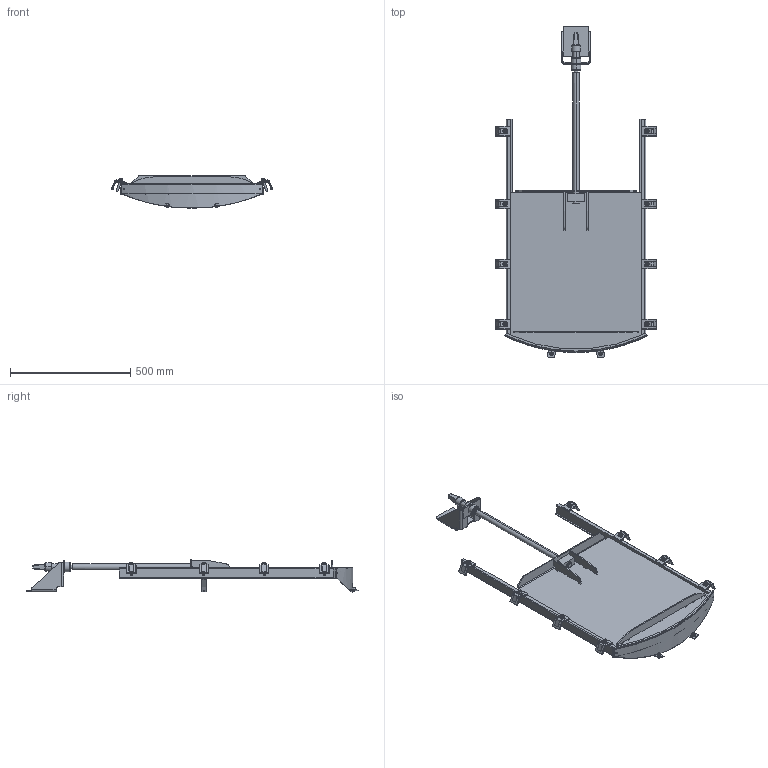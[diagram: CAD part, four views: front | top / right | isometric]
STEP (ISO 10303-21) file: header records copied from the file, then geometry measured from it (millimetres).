
FILE_DESCRIPTION (( 'STEP AP214' ), '1' );
FILE_NAME ('LW 500 Schacht1500 verschr..STEP', '2022-05-20T09:58:16', ( '' ), ( '' ), 'SwSTEP 2.0', 'SolidWorks 2021', '' );
FILE_SCHEMA (( 'AUTOMOTIVE_DESIGN' ));
Length unit declared in the file: millimetre
Products named in the file (1): LW 500 Schacht1500 verschr.
Bounding box: 669.24 x 1379.46 x 133.75 mm (x, y, z)
Volume: 5082638.4 mm3; surface area: 1579950 mm2
Topology: 1 solids, 11 shells, 1433 faces, 3398 edges, 1924 vertices
Faces by surface type: cylinder 551, plane 427, cone 146, sphere 112, torus 104, bspline 93
Entity records: 60641 total; most frequent: CARTESIAN_POINT 13155, DIRECTION 6794, ORIENTED_EDGE 6564, EDGE_CURVE 3282, AXIS2_PLACEMENT_3D 2689, VERTEX_POINT 1908, EDGE_LOOP 1530, UNCERTAINTY_MEASURE_WITH_UNIT 1436
